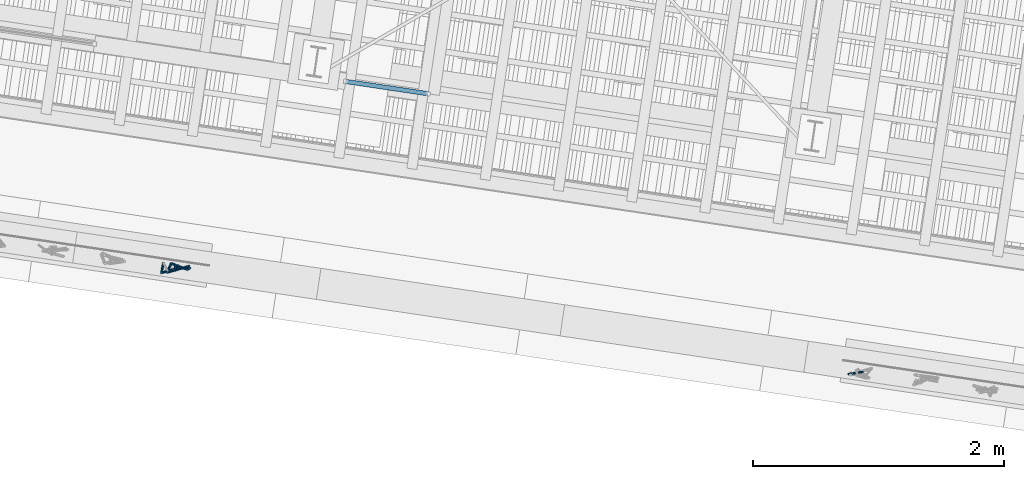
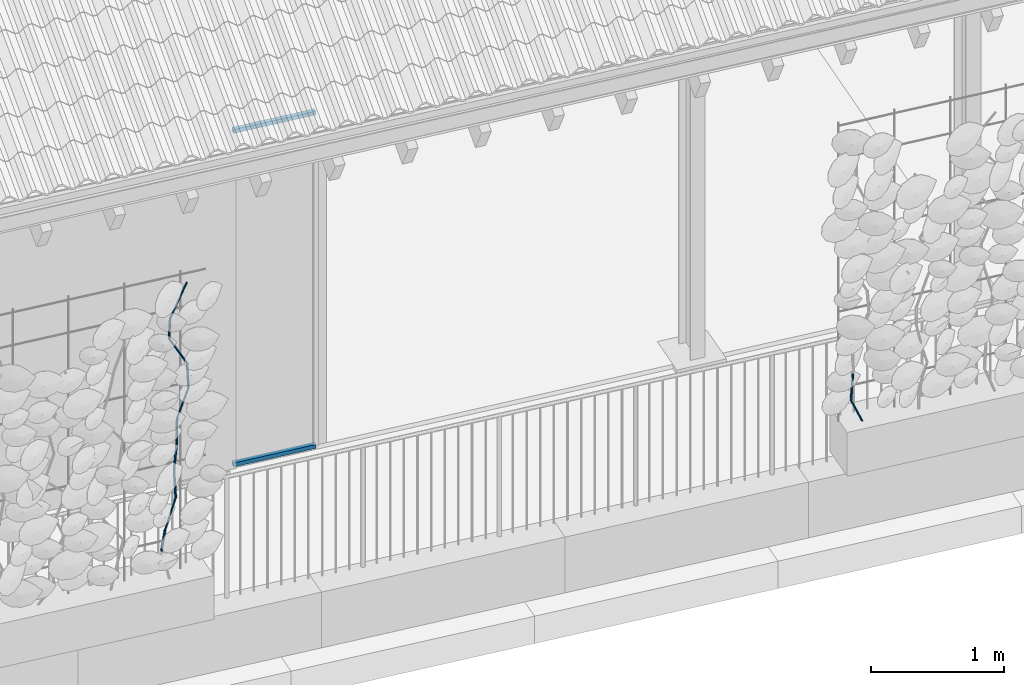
# One storey, part 114 of 128: 14 members, 1 element without a shape of its own.
"""IFC4 building model written with IfcOpenShell, lengths in metres."""

import ifcopenshell
import ifcopenshell.guid

model = None  # the IFC model being written
_history = None  # IfcOwnerHistory: only IFC2X3 demands one
_inside = {}  # id of a spatial element -> (the spatial element, [elements in it])
_under = {}  # id of a project, library or spatial element -> (it, [spatial elements below it])
_declared = {}  # id of a project -> (the project, [libraries it declares])
_typed = {}  # id of a type object -> (the type object, [elements of that type])
_made_of = {}  # id of a material, layer set ... -> (it, [elements and type objects made of it])


def new_model(schema):
    """Start an empty IFC model of exactly this schema.

    Asked for "IFC4X3", IfcOpenShell would pick the latest addendum, in which some entities
    have other attributes; the version numbers below select the first issue.
    IFC2X3 requires an IfcOwnerHistory on every rooted entity: one is made here for all.
    """
    global model, _history
    if schema == "IFC4X3":
        model = ifcopenshell.file(schema_version=(4, 3, 0, 0))
    else:
        model = ifcopenshell.file(schema=schema)
    _inside.clear()
    _under.clear()
    _declared.clear()
    _typed.clear()
    _made_of.clear()
    _history = None
    if model.schema == "IFC2X3":
        org = make("IfcOrganization", Name="unknown")
        user = make(
            "IfcPersonAndOrganization",
            ThePerson=make("IfcPerson", FamilyName="unknown"),
            TheOrganization=org,
        )
        app = make(
            "IfcApplication",
            ApplicationDeveloper=org,
            Version="unknown",
            ApplicationFullName="unknown",
            ApplicationIdentifier="unknown",
        )
        _history = make(
            "IfcOwnerHistory",
            OwningUser=user,
            OwningApplication=app,
            ChangeAction="ADDED",
            CreationDate=0,
        )
    return model


def make(cls, **values):
    """One entity of the class cls with the attributes given. An attribute that is None is left unset."""
    return model.create_entity(
        cls, **{name: value for name, value in values.items() if value is not None}
    )


def rooted(cls, **values):
    """An entity with a GlobalId (a new one), such as an element, a storey or a relation."""
    return make(cls, GlobalId=ifcopenshell.guid.new(), OwnerHistory=_history, **values)


def si_unit(unit_type, name, prefix=None):
    """IfcSIUnit, for example si_unit("LENGTHUNIT", "METRE", prefix="MILLI")."""
    return make("IfcSIUnit", UnitType=unit_type, Prefix=prefix, Name=name)


def assignment(units):
    """IfcUnitAssignment: the units of a project."""
    return None if units is None else make("IfcUnitAssignment", Units=units)


def point(xyz):
    """IfcCartesianPoint."""
    return None if xyz is None else make("IfcCartesianPoint", Coordinates=xyz)


def direction(xyz):
    """IfcDirection."""
    return None if xyz is None else make("IfcDirection", DirectionRatios=xyz)


def frame(location, z_axis=None, x_axis=None):
    """IfcAxis2Placement3D, a coordinate frame: its origin and axes. An axis left out is left unset."""
    return make(
        "IfcAxis2Placement3D",
        Location=point(location),
        Axis=direction(z_axis),
        RefDirection=direction(x_axis),
    )


def origin_with_axes():
    """The frame at (0, 0, 0) with the z axis (0, 0, 1) and the x axis (1, 0, 0) written out."""
    return frame((0.0, 0.0, 0.0), z_axis=(0.0, 0.0, 1.0), x_axis=(1.0, 0.0, 0.0))


def place(relative_to, where):
    """IfcLocalPlacement: puts the frame where relative to a parent placement (None: the world)."""
    return make(
        "IfcLocalPlacement", PlacementRelTo=relative_to, RelativePlacement=where
    )


def context(
    kind, dimensions, precision=None, world=None, true_north=None, identifier=None
):
    """IfcGeometricRepresentationContext, for example the 3D "Model" context."""
    return make(
        "IfcGeometricRepresentationContext",
        ContextIdentifier=identifier,
        ContextType=kind,
        CoordinateSpaceDimension=dimensions,
        Precision=precision,
        WorldCoordinateSystem=world,
        TrueNorth=true_north,
    )


def subcontext(parent, identifier, kind, view, scale=None):
    """IfcGeometricRepresentationSubContext, for example "Body" below "Model"."""
    return make(
        "IfcGeometricRepresentationSubContext",
        ContextIdentifier=identifier,
        ContextType=kind,
        ParentContext=parent,
        TargetScale=scale,
        TargetView=view,
    )


def project(units=None, contexts=None):
    """IfcProject with its units and contexts."""
    return rooted(
        "IfcProject",
        Name="project",
        RepresentationContexts=contexts,
        UnitsInContext=assignment(units),
    )


def spatial(cls, under=None, at=None, **own):
    """A site, building, storey or space (cls), placed at a placement, below another one or the project."""
    s = rooted(cls, ObjectPlacement=at, **own)
    if under is not None:
        _under.setdefault(under.id(), (under, []))[1].append(s)
    return s


def profile(cls, at=None, kind="AREA", **sizes):
    """A parametric profile (cls). Its sizes go by their IFC names, for example OverallWidth=200.0."""
    return make(cls, ProfileType=kind, Position=at, **sizes)


def rectangle(**sizes):
    """IfcRectangleProfileDef."""
    return profile("IfcRectangleProfileDef", **sizes)


def circle(**sizes):
    """IfcCircleProfileDef."""
    return profile("IfcCircleProfileDef", **sizes)


def extrude(swept, where, along, depth):
    """IfcExtrudedAreaSolid: the profile swept, set in the frame where, extruded along a direction by depth."""
    return make(
        "IfcExtrudedAreaSolid",
        SweptArea=swept,
        Position=where,
        ExtrudedDirection=direction(along),
        Depth=depth,
    )


def shape(context_of_items, identifier, shape_type, items):
    """IfcShapeRepresentation: the items that make up one representation, for example the "Body"."""
    return make(
        "IfcShapeRepresentation",
        ContextOfItems=context_of_items,
        RepresentationIdentifier=identifier,
        RepresentationType=shape_type,
        Items=items,
    )


def material(Name=None, Category=None):
    """IfcMaterial."""
    return make("IfcMaterial", Name=Name, Category=Category)


def material_profile(
    of_material, cross_section, Name=None, Category=None, Priority=None
):
    """IfcMaterialProfile: a cross section and its material."""
    return make(
        "IfcMaterialProfile",
        Name=Name,
        Material=of_material,
        Profile=cross_section,
        Priority=Priority,
        Category=Category,
    )


def profile_set(profiles, Name=None, composite=None):
    """IfcMaterialProfileSet."""
    return make(
        "IfcMaterialProfileSet",
        Name=Name,
        MaterialProfiles=profiles,
        CompositeProfile=composite,
    )


def profile_usage(for_profile_set, cardinal=None, extent=None):
    """IfcMaterialProfileSetUsage: how a profile set lies along its element."""
    return make(
        "IfcMaterialProfileSetUsage",
        ForProfileSet=for_profile_set,
        CardinalPoint=cardinal,
        ReferenceExtent=extent,
    )


def made_of(thing, what):
    """Note that an element or type object is made of a material, layer set ...; save() writes the relation."""
    if what is not None:
        _made_of.setdefault(what.id(), (what, []))[1].append(thing)
    return thing


def type_object(cls, material=None, **own):
    """A type object (cls), such as IfcWallType, which elements share."""
    return made_of(rooted(cls, **own), material)


def element(
    cls,
    number,
    at=None,
    inside=None,
    cuts=None,
    type_object=None,
    material=None,
    context=None,
    identifier="Body",
    shape_type=None,
    held_by="IfcProductDefinitionShape",
    body=None,
    shapes=None,
    **own,
):
    """One element of the class cls, such as IfcWall. Its Tag is "e" and its number.

    at: its placement. inside: the storey or other place that contains it. cuts: it is an
    opening in that element (IfcRelVoidsElement). A single representation is given by context,
    identifier, shape_type and body (its items); several are given by shapes. held_by: the class
    of the entity that holds the representations. save() writes the other relations.
    """
    e = rooted(cls, Tag="e%d" % number, ObjectPlacement=at, **own)
    if body is not None:
        shapes = [shape(context, identifier, shape_type, body)]
    if shapes is not None:
        e.Representation = make(held_by, Representations=shapes)
    if inside is not None:
        _inside.setdefault(inside.id(), (inside, []))[1].append(e)
    if cuts is not None:
        rooted(
            "IfcRelVoidsElement", RelatingBuildingElement=cuts, RelatedOpeningElement=e
        )
    if type_object is not None:
        _typed.setdefault(type_object.id(), (type_object, []))[1].append(e)
    return made_of(e, material)


def aggregate(whole, parts):
    """IfcRelAggregates: a whole, such as a stair, and the parts it consists of."""
    return rooted("IfcRelAggregates", RelatingObject=whole, RelatedObjects=parts)


def save(model, path):
    """Write the relations noted so far, then the file.

    IfcRelAggregates (storeys below a building ...), IfcRelContainedInSpatialStructure (elements
    in a storey), IfcRelDefinesByType, IfcRelAssociatesMaterial and IfcRelDeclares: one each for
    every whole, place, type object, material and project.
    """
    for whole, parts in _under.values():
        aggregate(whole, parts)
    for where, things in _inside.values():
        rooted(
            "IfcRelContainedInSpatialStructure",
            RelatedElements=things,
            RelatingStructure=where,
        )
    for kind, things in _typed.values():
        rooted("IfcRelDefinesByType", RelatedObjects=things, RelatingType=kind)
    for what, things in _made_of.values():
        rooted("IfcRelAssociatesMaterial", RelatedObjects=things, RelatingMaterial=what)
    for by, libraries in _declared.values():
        rooted("IfcRelDeclares", RelatingContext=by, RelatedDefinitions=libraries)
    model.write(path)


model = new_model("IFC4")

# Units and contexts
model_context = context("Model", 3, precision=1e-05, world=origin_with_axes(), true_north=direction((0.0, 1.0)))
body_context = subcontext(model_context, "Body", "Model", "MODEL_VIEW")
ifc_project = project(units=[si_unit("VOLUMEUNIT", "CUBIC_METRE"), si_unit("LENGTHUNIT", "METRE"), si_unit("AREAUNIT", "SQUARE_METRE")], contexts=[model_context])

# Site, building, storey
site_placement = place(None, origin_with_axes())
site = spatial("IfcSite", under=ifc_project, at=site_placement, Name="Lares · Rua das Mercês · artigo 4771")
building_placement = place(site_placement, frame((15.0, 9.7, 13.9), z_axis=(0.0, 0.0, 1.0), x_axis=(0.989015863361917, -0.147809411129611, 0.0)))
building = spatial("IfcBuilding", under=site, at=building_placement, Name="Casa Sobreposta")
storey_placement = place(building_placement, origin_with_axes())
storey = spatial("IfcBuildingStorey", under=building, at=storey_placement, Name="00 · Habitação e estacionamento", Elevation=13.9)

# Members
ifc_material_1 = material(Name="Aço pintado / Stahl lackiert", Category="steel")
ifc_material_profile_1 = material_profile(ifc_material_1, rectangle(XDim=0.035, YDim=0.035))
ifc_profile_set_1 = profile_set([ifc_material_profile_1], Name="R0.035")
ifc_profile_usage_1 = profile_usage(ifc_profile_set_1)
member_type_1 = type_object("IfcMemberType", Name="R0.035 / steel", PredefinedType="NOTDEFINED", material=ifc_profile_set_1)
member_1_placement = place(storey_placement, frame((24.256, 0.0, 0.0), z_axis=(1.0, 0.0, 0.0), x_axis=(0.0, -1.0, 0.0)))
element("IfcMember", 1, at=member_1_placement, inside=storey, type_object=member_type_1, material=ifc_profile_usage_1, Name="Folha de correr sul 12 · travessa", context=body_context, shape_type="SweptSolid", body=[
    extrude(rectangle(XDim=0.035, YDim=0.035), origin_with_axes(), (0.0, 0.0, 1.0), 0.664000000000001),
])
ifc_profile_usage_2 = profile_usage(ifc_profile_set_1)
member_2_placement = place(storey_placement, frame((24.256, 0.0, 3.05), z_axis=(1.0, 0.0, 0.0), x_axis=(0.0, -1.0, 0.0)))
element("IfcMember", 2, at=member_2_placement, inside=storey, type_object=member_type_1, material=ifc_profile_usage_2, Name="Folha de correr sul 12 · travessa", context=body_context, shape_type="SweptSolid", body=[
    extrude(rectangle(XDim=0.035, YDim=0.035), origin_with_axes(), (0.0, 0.0, 1.0), 0.664000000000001),
])

# Assembly, members
assembly_placement = place(storey_placement, origin_with_axes())
assembly = element("IfcElementAssembly", 3, at=assembly_placement, inside=storey, Name="Fachada sul e pátio · estrutura e trepadeiras", ObjectType="LIVING_SHADE_TRELLIS", PredefinedType="USERDEFINED")
ifc_material_2 = material(Name="Ramos de trepadeiras", Category="wood")
ifc_material_profile_2 = material_profile(ifc_material_2, circle(Radius=0.0075))
ifc_profile_set_2 = profile_set([ifc_material_profile_2], Name="D0.015")
ifc_profile_usage_3 = profile_usage(ifc_profile_set_2)
member_type_2 = type_object("IfcMemberType", Name="D0.015 / vine_wood", PredefinedType="NOTDEFINED", material=ifc_profile_set_2)
member_3_placement = place(assembly_placement, frame((23.0345548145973, -1.64407805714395, 0.589963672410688), z_axis=(-0.0113902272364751, -0.310696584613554, 0.950440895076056), x_axis=(-0.99932868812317, 0.0366356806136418, 0.0)))
member_3 = element("IfcMember", 4, at=member_3_placement, type_object=member_type_2, material=ifc_profile_usage_3, Name="Trepadeiras · ramo", context=body_context, shape_type="SweptSolid", body=[
    extrude(circle(Radius=0.0075), origin_with_axes(), (0.0, 0.0, 1.0), 0.252476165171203),
])
ifc_profile_usage_4 = profile_usage(ifc_profile_set_2)
member_4_placement = place(assembly_placement, frame((23.0316790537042, -1.72252153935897, 0.829927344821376), z_axis=(0.395049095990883, 0.184528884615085, 0.899936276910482), x_axis=(0.423210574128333, -0.906031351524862, 0.0)))
member_4 = element("IfcMember", 5, at=member_4_placement, type_object=member_type_2, material=ifc_profile_usage_4, Name="Trepadeiras · ramo", context=body_context, shape_type="SweptSolid", body=[
    extrude(circle(Radius=0.0075), origin_with_axes(), (0.0, 0.0, 1.0), 0.266645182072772),
])
ifc_profile_usage_5 = profile_usage(ifc_profile_set_2)
member_5_placement = place(assembly_placement, frame((23.1370169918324, -1.6733178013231, 1.06989101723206), z_axis=(-0.0227986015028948, 0.0880694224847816, 0.995853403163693), x_axis=(0.968088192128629, 0.250609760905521, 0.0)))
member_5 = element("IfcMember", 6, at=member_5_placement, type_object=member_type_2, material=ifc_profile_usage_5, Name="Trepadeiras · ramo", context=body_context, shape_type="SweptSolid", body=[
    extrude(circle(Radius=0.0075), origin_with_axes(), (0.0, 0.0, 1.0), 0.240962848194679),
])
ifc_profile_usage_6 = profile_usage(ifc_profile_set_2)
member_6_placement = place(assembly_placement, frame((23.1315233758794, -1.6520963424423, 1.30985468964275), z_axis=(0.0992382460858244, 0.0185059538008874, 0.994891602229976), x_axis=(0.183319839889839, -0.983053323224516, 0.0)))
member_6 = element("IfcMember", 7, at=member_6_placement, type_object=member_type_2, material=ifc_profile_usage_6, Name="Trepadeiras · ramo", context=body_context, shape_type="SweptSolid", body=[
    extrude(circle(Radius=0.0075), origin_with_axes(), (0.0, 0.0, 1.0), 0.241195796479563),
])
ifc_profile_usage_7 = profile_usage(ifc_profile_set_2)
member_7_placement = place(assembly_placement, frame((23.1554592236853, -1.64763278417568, 1.54981836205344), z_axis=(-0.028342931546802, -0.0953151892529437, 0.995043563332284), x_axis=(-0.958519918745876, 0.28502555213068, 0.0)))
member_7 = element("IfcMember", 8, at=member_7_placement, type_object=member_type_2, material=ifc_profile_usage_7, Name="Trepadeiras · ramo", context=body_context, shape_type="SweptSolid", body=[
    extrude(circle(Radius=0.0075), origin_with_axes(), (0.0, 0.0, 1.0), 0.241158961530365),
])
ifc_profile_usage_8 = profile_usage(ifc_profile_set_2)
member_8_placement = place(assembly_placement, frame((23.1486240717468, -1.67061889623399, 1.78978203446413), z_axis=(0.381961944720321, 0.0718600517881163, 0.92138005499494), x_axis=(0.184890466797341, -0.982759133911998, 0.0)))
member_8 = element("IfcMember", 9, at=member_8_placement, type_object=member_type_2, material=ifc_profile_usage_8, Name="Trepadeiras · ramo", context=body_context, shape_type="SweptSolid", body=[
    extrude(circle(Radius=0.0075), origin_with_axes(), (0.0, 0.0, 1.0), 0.260439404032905),
])
ifc_profile_usage_9 = profile_usage(ifc_profile_set_2)
member_9_placement = place(assembly_placement, frame((23.248102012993, -1.65190370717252, 2.02974570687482), z_axis=(-0.0703236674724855, -0.0624431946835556, 0.995567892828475), x_axis=(-0.663967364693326, 0.74776155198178, 0.0)))
member_9 = element("IfcMember", 10, at=member_9_placement, type_object=member_type_2, material=ifc_profile_usage_9, Name="Trepadeiras · ramo", context=body_context, shape_type="SweptSolid", body=[
    extrude(circle(Radius=0.0075), origin_with_axes(), (0.0, 0.0, 1.0), 0.241031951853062),
])
ifc_profile_usage_10 = profile_usage(ifc_profile_set_2)
member_10_placement = place(assembly_placement, frame((23.2311517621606, -1.66695451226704, 2.2697093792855), z_axis=(-0.484541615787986, 0.107113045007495, 0.868185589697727), x_axis=(0.215849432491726, 0.976426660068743, 0.0)))
member_10 = element("IfcMember", 11, at=member_10_placement, type_object=member_type_2, material=ifc_profile_usage_10, Name="Trepadeiras · ramo", context=body_context, shape_type="SweptSolid", body=[
    extrude(circle(Radius=0.0075), origin_with_axes(), (0.0, 0.0, 1.0), 0.27639674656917),
])
ifc_profile_usage_11 = profile_usage(ifc_profile_set_2)
member_11_placement = place(assembly_placement, frame((23.0972260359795, -1.63734881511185, 2.50967305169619), z_axis=(-0.0844863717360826, -0.300328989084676, 0.950086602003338), x_axis=(-0.96263519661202, 0.270801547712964, 0.0)))
member_11 = element("IfcMember", 12, at=member_11_placement, type_object=member_type_2, material=ifc_profile_usage_11, Name="Trepadeiras · ramo", context=body_context, shape_type="SweptSolid", body=[
    extrude(circle(Radius=0.0075), origin_with_axes(), (0.0, 0.0, 1.0), 0.252570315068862),
])
ifc_profile_usage_12 = profile_usage(ifc_profile_set_2)
member_12_placement = place(assembly_placement, frame((23.0758872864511, -1.71320300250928, 2.74963672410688), z_axis=(0.549972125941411, 0.25083623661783, 0.796625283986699), x_axis=(0.414966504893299, -0.909836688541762, 0.0)))
member_12 = element("IfcMember", 13, at=member_12_placement, type_object=member_type_2, material=ifc_profile_usage_12, Name="Trepadeiras · ramo", context=body_context, shape_type="SweptSolid", body=[
    extrude(circle(Radius=0.0075), origin_with_axes(), (0.0, 0.0, 1.0), 0.301225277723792),
])
ifc_profile_usage_13 = profile_usage(ifc_profile_set_2)
member_13_placement = place(assembly_placement, frame((28.6654728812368, -1.6786196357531, 0.35), z_axis=(-0.396851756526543, -0.12315337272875, 0.909583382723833), x_axis=(-0.2963827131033, 0.95506925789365, -1.51893547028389e-17)))
member_13 = element("IfcMember", 14, at=member_13_placement, type_object=member_type_2, material=ifc_profile_usage_13, Name="Trepadeiras · ramo", context=body_context, shape_type="SweptSolid", body=[
    extrude(circle(Radius=0.0075), origin_with_axes(), (0.0, 0.0, 1.0), 0.265459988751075),
])
ifc_profile_usage_14 = profile_usage(ifc_profile_set_2)
member_14_placement = place(assembly_placement, frame((28.5601246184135, -1.71131192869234, 0.591457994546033), z_axis=(0.0614256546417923, -0.00943117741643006, 0.998067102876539), x_axis=(-0.1517597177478, -0.988417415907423, 0.0)))
member_14 = element("IfcMember", 15, at=member_14_placement, type_object=member_type_2, material=ifc_profile_usage_14, Name="Trepadeiras · ramo", context=body_context, shape_type="SweptSolid", body=[
    extrude(circle(Radius=0.0075), origin_with_axes(), (0.0, 0.0, 1.0), 0.241925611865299),
])
aggregate(assembly, [member_3, member_4, member_5, member_6, member_7, member_8, member_9, member_10, member_11, member_12, member_13, member_14])

save(model, "model.ifc")
